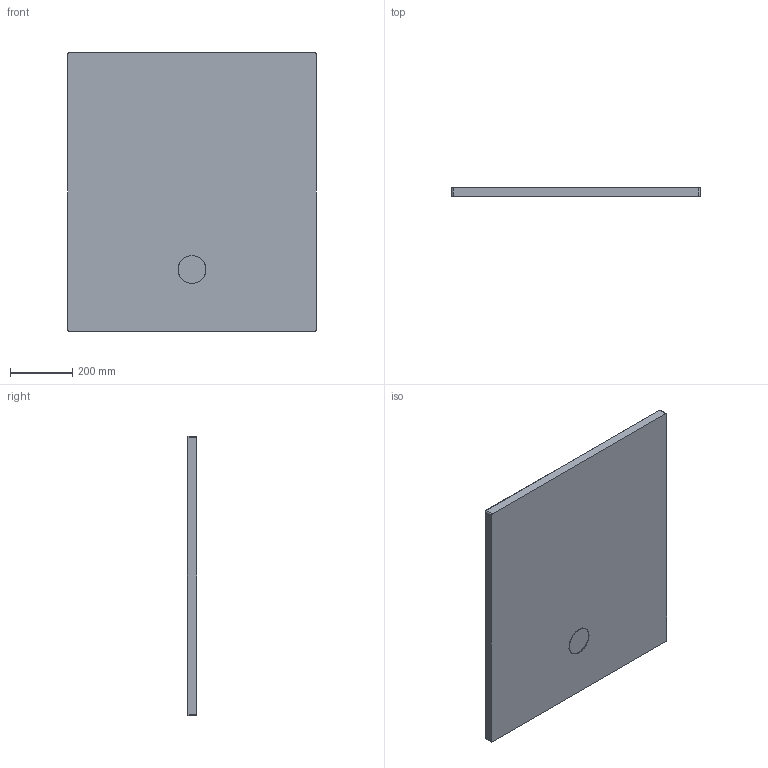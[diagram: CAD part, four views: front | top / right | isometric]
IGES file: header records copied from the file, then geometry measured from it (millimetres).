
Start section: SolidWorks IGES file using analytic representation for surfaces
Global section: file name: D:\Users\M.Szymanski\Desktop\Brodziki\Nias\B_M_NIAS_90x80x1,5.IGS; native system: SolidWorks 2011; preprocessor: SolidWorks 2011; author: M.Szymanski; date: 180222.141144; units: millimetre
Bounding box: 800 x 30 x 900 mm (x, y, z)
Surface area: 1561691 mm2 (no closed solid volume)
Topology: 0 solids, 0 shells, 45 faces, 662 edges, 661 vertices
Faces by surface type: bspline 25, revolution 20
